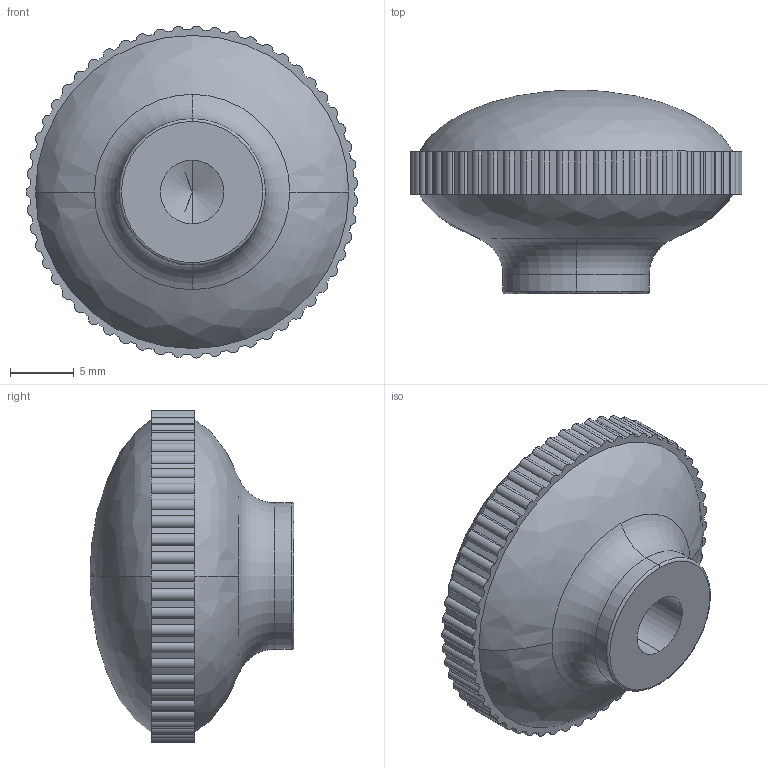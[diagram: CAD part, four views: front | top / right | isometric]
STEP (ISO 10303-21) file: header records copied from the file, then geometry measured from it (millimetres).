
FILE_DESCRIPTION (( 'STEP AP214' ), '1' );
FILE_NAME ('1113 26 101.STEP', '2010-11-26T10:14:15', ( 'Marc' ), ( '' ), 'SwSTEP 2.0', 'SolidWorks 2010', '' );
FILE_SCHEMA (( 'AUTOMOTIVE_DESIGN' ));
Length unit declared in the file: millimetre
Products named in the file (1): 1113 26 101
Bounding box: 26.08 x 16 x 26.09 mm (x, y, z)
Volume: 4602.2 mm3; surface area: 1883.1 mm2
Topology: 1 solids, 1 shells, 148 faces, 429 edges, 282 vertices
Faces by surface type: cylinder 135, bspline 4, torus 4, plane 3, cone 2
Entity records: 5121 total; most frequent: DIRECTION 995, CARTESIAN_POINT 928, ORIENTED_EDGE 850, AXIS2_PLACEMENT_3D 429, EDGE_CURVE 425, CIRCLE 284, VERTEX_POINT 282, EDGE_LOOP 151
